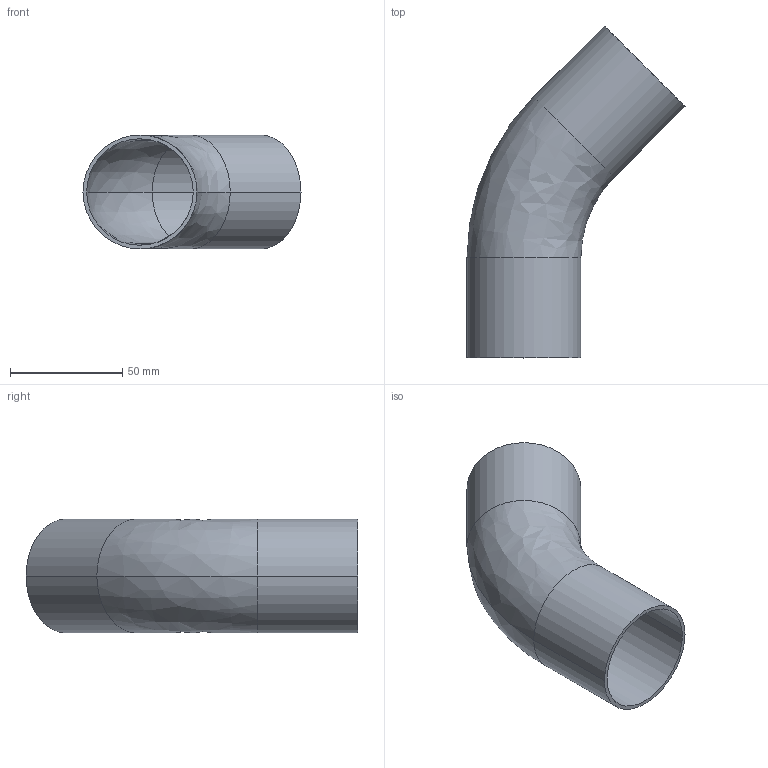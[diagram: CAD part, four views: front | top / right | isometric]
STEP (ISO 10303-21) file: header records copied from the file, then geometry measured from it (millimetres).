
FILE_DESCRIPTION (( 'STEP AP214' ), '1' );
FILE_NAME ('TE2KS6L2.0-...STEP', '2016-05-22T06:52:18', ( 'eran' ), ( '' ), 'SwSTEP 2.0', 'SolidWorks 2016', '' );
FILE_SCHEMA (( 'AUTOMOTIVE_DESIGN' ));
Length unit declared in the file: millimetre
Products named in the file (1): TE2KS6L2.0-..
Bounding box: 97.24 x 148.04 x 50.8 mm (x, y, z)
Volume: 37992.4 mm3; surface area: 46560.9 mm2
Topology: 1 solids, 1 shells, 14 faces, 28 edges, 16 vertices
Faces by surface type: cylinder 8, bspline 4, plane 2
Entity records: 450 total; most frequent: CARTESIAN_POINT 119, DIRECTION 70, ORIENTED_EDGE 56, AXIS2_PLACEMENT_3D 31, EDGE_CURVE 28, CIRCLE 20, EDGE_LOOP 16, VERTEX_POINT 16
